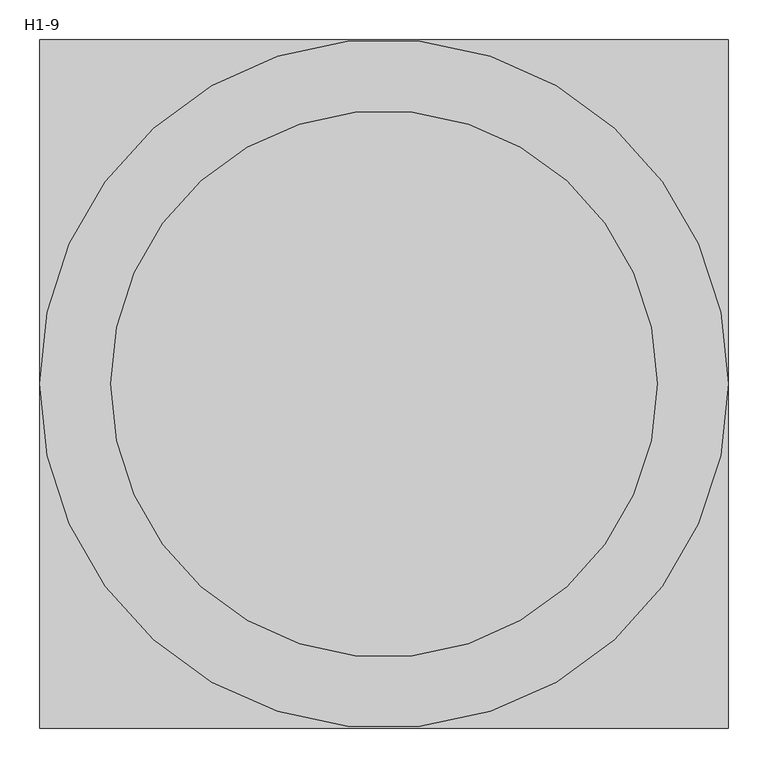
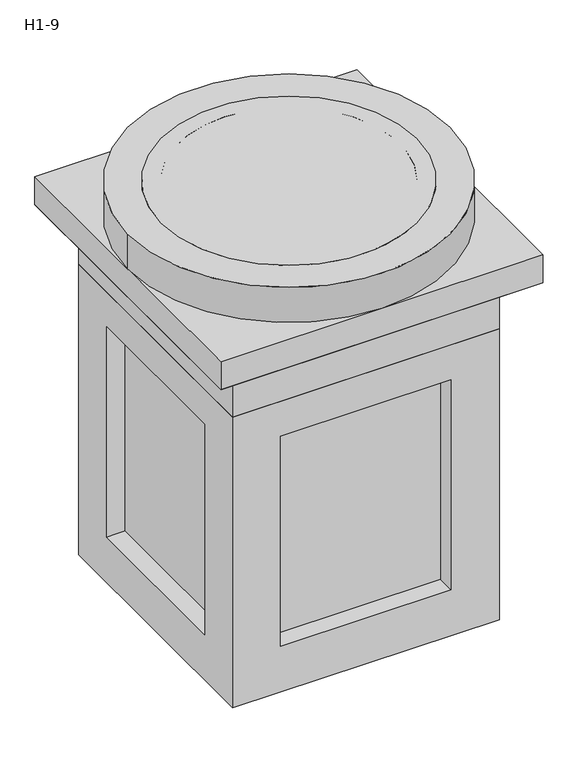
"""IFC4 building model written with IfcOpenShell, lengths in millimetres: electric distribution board geometry, 21904_ハンドホール H1 : H1-9."""

from ifc_helpers import new_model, si_unit, point, frame, origin, origin_with_axes, origin_2d, place, context, project, spatial, polyline, circle_curve, trimmed, segment, composite_curve, outline, extrude, source, transform, mapped, element, save
from ifc_brep_helpers import plane_surface, revolved_surface, advanced_brep


def h1_9_0894fb5f(model_context):
    return source(origin(), model_context, "Body", "SolidModel", [
        extrude(outline(polyline([(360.0, 360.0), (360.0, -360.0), (-360.0, -360.0), (-360.0, 360.0), (360.0, 360.0)]), holes=[composite_curve([segment(trimmed(circle_curve(origin_2d(), 300.0), [point((0.0, 300.0))], [point((0.0, -300.0))], True, "CARTESIAN"), True, "CONTINUOUS"), segment(trimmed(circle_curve(origin_2d(), 300.0), [point((0.0, -300.0))], [point((0.0, 300.0))], True, "CARTESIAN"), True, "CONTINUOUS")], self_intersect=False)]), frame((0.0, 0.0, -300.0), z_axis=(0.0, 0.0, 1.0), x_axis=(1.0, 0.0, 0.0)), (0.0, 0.0, 1.0), 100.0),
        extrude(outline(composite_curve([segment(trimmed(circle_curve(origin_2d(), 345.0), [point((-345.0, 0.0))], [point((345.0, 0.0))], False, "CARTESIAN"), True, "CONTINUOUS"), segment(trimmed(circle_curve(origin_2d(), 345.0), [point((345.0, 0.0))], [point((-345.0, 0.0))], False, "CARTESIAN"), True, "CONTINUOUS")], self_intersect=False)), origin_with_axes(), (0.0, 0.0, 1.0), 30.0),
        extrude(outline(composite_curve([segment(trimmed(circle_curve(origin_2d(), 435.0), [point((-435.0, 0.0))], [point((435.0, 0.0))], False, "CARTESIAN"), True, "CONTINUOUS"), segment(trimmed(circle_curve(origin_2d(), 435.0), [point((435.0, 0.0))], [point((-435.0, 0.0))], False, "CARTESIAN"), True, "CONTINUOUS")], self_intersect=False), holes=[composite_curve([segment(trimmed(circle_curve(origin_2d(), 300.0), [point((0.0, 300.0))], [point((0.0, -300.0))], True, "CARTESIAN"), True, "CONTINUOUS"), segment(trimmed(circle_curve(origin_2d(), 300.0), [point((0.0, -300.0))], [point((0.0, 300.0))], True, "CARTESIAN"), True, "CONTINUOUS")], self_intersect=False)]), frame((0.0, 0.0, -70.0), z_axis=(0.0, 0.0, 1.0), x_axis=(1.0, 0.0, 0.0)), (0.0, 0.0, 1.0), 100.0),
        advanced_brep(
        [(360.0, -360.0, -300.0), (360.0, 360.0, -300.0), (-360.0, 360.0, -300.0), (-360.0, -360.0, -300.0), (0.0, -300.0, -300.0), (0.0, 300.0, -300.0), (360.0, -360.0, -1130.0), (-360.0, -360.0, -1130.0), (-360.0, 360.0, -1130.0), (360.0, 360.0, -1130.0), (360.0, -230.0, -400.0), (360.0, 230.0, -400.0), (360.0, 230.0, -1000.0), (360.0, -230.0, -1000.0), (230.0, 360.0, -400.0), (-230.0, 360.0, -400.0), (-230.0, 360.0, -1000.0), (230.0, 360.0, -1000.0), (-360.0, 230.0, -400.0), (-360.0, -230.0, -400.0), (-360.0, -230.0, -1000.0), (-360.0, 230.0, -1000.0), (-230.0, -360.0, -400.0), (230.0, -360.0, -400.0), (230.0, -360.0, -1000.0), (-230.0, -360.0, -1000.0), (0.0, 300.0, -1050.0), (0.0, -300.0, -1050.0), (310.0, -230.0, -400.0), (310.0, -230.0, -1000.0), (310.0, 230.0, -1000.0), (310.0, 230.0, -400.0), (230.0, -310.0, -400.0), (-230.0, -310.0, -400.0), (-230.0, -310.0, -1000.0), (230.0, -310.0, -1000.0), (-310.0, -230.0, -400.0), (-310.0, 230.0, -400.0), (-310.0, 230.0, -1000.0), (-310.0, -230.0, -1000.0), (230.0, 310.0, -400.0), (230.0, 310.0, -1000.0), (-230.0, 310.0, -1000.0), (-230.0, 310.0, -400.0)],
        [
            (0, 1),
            (1, 2),
            (2, 3),
            (3, 0),
            (4, 5, circle_curve(frame((0.0, 0.0, -300.0), z_axis=(0.0, 0.0, -1.0), x_axis=(0.0, -1.0, 0.0)), 300.0)),
            (5, 4, circle_curve(frame((0.0, 0.0, -300.0), z_axis=(0.0, 0.0, -1.0), x_axis=(0.0, -1.0, 0.0)), 300.0)),
            (6, 7),
            (7, 8),
            (8, 9),
            (9, 6),
            (0, 6),
            (9, 1),
            (10, 11),
            (11, 12),
            (12, 13),
            (13, 10),
            (8, 2),
            (14, 15),
            (15, 16),
            (16, 17),
            (17, 14),
            (7, 3),
            (18, 19),
            (19, 20),
            (20, 21),
            (21, 18),
            (22, 23),
            (23, 24),
            (24, 25),
            (25, 22),
            (26, 27, circle_curve(frame((0.0, 0.0, -1050.0), z_axis=(0.0, 0.0, 1.0), x_axis=(0.0, -1.0, 0.0)), 300.0)),
            (27, 26, circle_curve(frame((0.0, 0.0, -1050.0), z_axis=(0.0, 0.0, 1.0), x_axis=(0.0, -1.0, 0.0)), 300.0)),
            (26, 5),
            (4, 27),
            (28, 29),
            (29, 30),
            (30, 31),
            (31, 28),
            (31, 11),
            (10, 28),
            (30, 12),
            (29, 13),
            (32, 33),
            (33, 34),
            (34, 35),
            (35, 32),
            (32, 23),
            (22, 33),
            (25, 34),
            (24, 35),
            (36, 37),
            (37, 38),
            (38, 39),
            (39, 36),
            (36, 19),
            (18, 37),
            (21, 38),
            (20, 39),
            (40, 41),
            (41, 42),
            (42, 43),
            (43, 40),
            (43, 15),
            (14, 40),
            (42, 16),
            (41, 17),
        ],
        [
            plane_surface(frame((360.0, -360.0, -300.0), z_axis=(0.0, 0.0, 1.0), x_axis=(0.0, 1.0, 0.0))),
            plane_surface(frame((360.0, -360.0, -1130.0), z_axis=(0.0, 0.0, -1.0), x_axis=(0.0, -1.0, 0.0))),
            plane_surface(frame((360.0, -360.0, -300.0), z_axis=(1.0, 0.0, 0.0), x_axis=(0.0, 0.0, -1.0))),
            plane_surface(frame((360.0, 360.0, -300.0), z_axis=(0.0, 1.0, 0.0), x_axis=(0.0, 0.0, -1.0))),
            plane_surface(frame((-360.0, 360.0, -300.0), z_axis=(-1.0, 0.0, 0.0), x_axis=(0.0, 0.0, -1.0))),
            plane_surface(frame((-360.0, -360.0, -300.0), z_axis=(0.0, -1.0, 0.0), x_axis=(0.0, 0.0, -1.0))),
            plane_surface(frame((0.0, -300.0, -1050.0), z_axis=(0.0, 0.0, 1.0), x_axis=(-1.0, 0.0, 0.0))),
            revolved_surface(polyline([(0.0, -300.0, -1050.0), (0.0, -300.0, -300.0)]), (0.0, 0.0, 30.0), (0.0, 0.0, -1.0)),
            plane_surface(frame((310.0, -230.0, -400.0), z_axis=(1.0, 0.0, 0.0), x_axis=(0.0, 0.0, 1.0))),
            plane_surface(frame((360.0, 230.0, -400.0), z_axis=(0.0, 0.0, -1.0), x_axis=(-1.0, 0.0, 0.0))),
            plane_surface(frame((360.0, 230.0, -1000.0), z_axis=(0.0, -1.0, 0.0), x_axis=(-1.0, 0.0, 0.0))),
            plane_surface(frame((360.0, -230.0, -1000.0), z_axis=(0.0, 0.0, 1.0), x_axis=(-1.0, 0.0, 0.0))),
            plane_surface(frame((360.0, -230.0, -400.0), z_axis=(0.0, 1.0, 0.0), x_axis=(-1.0, 0.0, 0.0))),
            plane_surface(frame((-230.0, -310.0, -400.0), z_axis=(0.0, -1.0, 0.0), x_axis=(1.0, 0.0, 0.0))),
            plane_surface(frame((230.0, -360.0, -400.0), z_axis=(0.0, 0.0, -1.0), x_axis=(0.0, 1.0, 0.0))),
            plane_surface(frame((-230.0, -360.0, -400.0), z_axis=(1.0, 0.0, 0.0), x_axis=(0.0, 1.0, 0.0))),
            plane_surface(frame((-230.0, -360.0, -1000.0), z_axis=(0.0, 0.0, 1.0), x_axis=(0.0, 1.0, 0.0))),
            plane_surface(frame((230.0, -360.0, -1000.0), z_axis=(-1.0, 0.0, 0.0), x_axis=(0.0, 1.0, 0.0))),
            plane_surface(frame((-310.0, 230.0, -400.0), z_axis=(-1.0, 0.0, 0.0), x_axis=(0.0, -1.0, 0.0))),
            plane_surface(frame((-360.0, -230.0, -400.0), z_axis=(0.0, 0.0, -1.0), x_axis=(1.0, 0.0, 0.0))),
            plane_surface(frame((-360.0, 230.0, -400.0), z_axis=(0.0, -1.0, 0.0), x_axis=(1.0, 0.0, 0.0))),
            plane_surface(frame((-360.0, 230.0, -1000.0), z_axis=(0.0, 0.0, 1.0), x_axis=(1.0, 0.0, 0.0))),
            plane_surface(frame((-360.0, -230.0, -1000.0), z_axis=(0.0, 1.0, 0.0), x_axis=(1.0, 0.0, 0.0))),
            plane_surface(frame((230.0, 310.0, -400.0), z_axis=(0.0, 1.0, 0.0), x_axis=(0.0, 0.0, 1.0))),
            plane_surface(frame((-230.0, 360.0, -400.0), z_axis=(0.0, 0.0, -1.0), x_axis=(0.0, -1.0, 0.0))),
            plane_surface(frame((-230.0, 360.0, -1000.0), z_axis=(1.0, 0.0, 0.0), x_axis=(0.0, -1.0, 0.0))),
            plane_surface(frame((230.0, 360.0, -1000.0), z_axis=(0.0, 0.0, 1.0), x_axis=(0.0, -1.0, 0.0))),
            plane_surface(frame((230.0, 360.0, -400.0), z_axis=(-1.0, 0.0, 0.0), x_axis=(0.0, -1.0, 0.0))),
        ],
        [
            (0, [[1, 2, 3, 4], [5, 6]]),
            (1, [[7, 8, 9, 10]]),
            (2, [[-1, 11, -10, 12], [13, 14, 15, 16]]),
            (3, [[-2, -12, -9, 17], [18, 19, 20, 21]]),
            (4, [[-3, -17, -8, 22], [23, 24, 25, 26]]),
            (5, [[-4, -22, -7, -11], [27, 28, 29, 30]]),
            (6, [[31, 32]]),
            (7, [[-31, 33, -5, 34]]),
            (7, [[-32, -34, -6, -33]]),
            (8, [[35, 36, 37, 38]]),
            (9, [[-38, 39, -13, 40]]),
            (10, [[-37, 41, -14, -39]]),
            (11, [[-36, 42, -15, -41]]),
            (12, [[-35, -40, -16, -42]]),
            (13, [[43, 44, 45, 46]]),
            (14, [[-43, 47, -27, 48]]),
            (15, [[-44, -48, -30, 49]]),
            (16, [[-45, -49, -29, 50]]),
            (17, [[-46, -50, -28, -47]]),
            (18, [[51, 52, 53, 54]]),
            (19, [[-51, 55, -23, 56]]),
            (20, [[-52, -56, -26, 57]]),
            (21, [[-53, -57, -25, 58]]),
            (22, [[-54, -58, -24, -55]]),
            (23, [[59, 60, 61, 62]]),
            (24, [[-62, 63, -18, 64]]),
            (25, [[-61, 65, -19, -63]]),
            (26, [[-60, 66, -20, -65]]),
            (27, [[-59, -64, -21, -66]]),
        ],
    ),
        advanced_brep(
        [(435.0, 435.0, -150.0), (-435.0, 435.0, -150.0), (-435.0, -435.0, -150.0), (435.0, -435.0, -150.0), (0.0, -300.0, -150.0), (0.0, 300.0, -150.0), (360.0, 360.0, -200.0), (360.0, -360.0, -200.0), (-360.0, -360.0, -200.0), (-360.0, 360.0, -200.0), (0.0, 300.0, -200.0), (0.0, -300.0, -200.0)],
        [
            (0, 1),
            (1, 2),
            (2, 3),
            (3, 0),
            (4, 5, circle_curve(frame((0.0, 0.0, -150.0), z_axis=(0.0, 0.0, -1.0), x_axis=(0.0, -1.0, 0.0)), 300.0)),
            (5, 4, circle_curve(frame((0.0, 0.0, -150.0), z_axis=(0.0, 0.0, -1.0), x_axis=(0.0, -1.0, 0.0)), 300.0)),
            (6, 7),
            (7, 8),
            (8, 9),
            (9, 6),
            (10, 11, circle_curve(frame((0.0, 0.0, -200.0), z_axis=(0.0, 0.0, 1.0), x_axis=(0.0, -1.0, 0.0)), 300.0)),
            (11, 10, circle_curve(frame((0.0, 0.0, -200.0), z_axis=(0.0, 0.0, 1.0), x_axis=(0.0, -1.0, 0.0)), 300.0)),
            (0, 6),
            (9, 1),
            (8, 2),
            (7, 3),
            (4, 11),
            (10, 5),
        ],
        [
            plane_surface(frame((0.0, 0.0, -150.0), z_axis=(0.0, 0.0, 1.0), x_axis=(0.0, 1.0, 0.0))),
            plane_surface(frame((0.0, 0.0, -200.0), z_axis=(0.0, 0.0, -1.0), x_axis=(0.0, 1.0, 0.0))),
            plane_surface(frame((0.0, 360.0, -200.0), z_axis=(0.0, 0.5547001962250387, -0.8320502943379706), x_axis=(-1.0, 0.0, 0.0))),
            plane_surface(frame((-360.0, 0.0, -200.0), z_axis=(-0.5547001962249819, 0.0, -0.8320502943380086), x_axis=(0.0, -1.0, 0.0))),
            plane_surface(frame((0.0, -360.0, -200.0), z_axis=(0.0, -0.5547001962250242, -0.8320502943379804), x_axis=(1.0, 0.0, 0.0))),
            plane_surface(frame((360.0, 0.0, -200.0), z_axis=(0.5547001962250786, 0.0, -0.8320502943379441), x_axis=(0.0, 1.0, 0.0))),
            revolved_surface(polyline([(0.0, -300.0, -200.0), (0.0, -300.0, -150.0)]), (0.0, 0.0, 30.0), (0.0, 0.0, -1.0)),
        ],
        [
            (0, [[1, 2, 3, 4], [5, 6]]),
            (1, [[7, 8, 9, 10], [11, 12]]),
            (2, [[-1, 13, -10, 14]]),
            (3, [[-2, -14, -9, 15]]),
            (4, [[-3, -15, -8, 16]]),
            (5, [[-4, -16, -7, -13]]),
            (6, [[17, -11, 18, -5]]),
            (6, [[-17, -6, -18, -12]]),
        ],
    ),
        extrude(outline(polyline([(435.0, 435.0), (435.0, -435.0), (-435.0, -435.0), (-435.0, 435.0), (435.0, 435.0)]), holes=[composite_curve([segment(trimmed(circle_curve(origin_2d(), 300.0), [point((0.0, 300.0))], [point((0.0, -300.0))], True, "CARTESIAN"), True, "CONTINUOUS"), segment(trimmed(circle_curve(origin_2d(), 300.0), [point((0.0, -300.0))], [point((0.0, 300.0))], True, "CARTESIAN"), True, "CONTINUOUS")], self_intersect=False)]), frame((0.0, 0.0, -150.0), z_axis=(0.0, 0.0, 1.0), x_axis=(1.0, 0.0, 0.0)), (0.0, 0.0, 1.0), 80.0),
    ])


if __name__ == "__main__":
    model = new_model("IFC4")
    model_context = context("Model", 3, world=origin())
    ifc_project = project(units=[si_unit("LENGTHUNIT", "METRE", prefix="MILLI")], contexts=[model_context])
    site = spatial("IfcSite", under=ifc_project)
    building = spatial("IfcBuilding", under=site)
    placement = place(None, origin())
    h1_9_shape = h1_9_0894fb5f(model_context)
    element("IfcElectricDistributionBoard", 1, ObjectType="21904_ハンドホール H1 : H1-9", at=placement, inside=building, context=model_context, shape_type="MappedRepresentation", body=[
        mapped(h1_9_shape, transform((0.0, 0.0, 0.0), x_axis=(1.0, 0.0, 0.0), y_axis=(0.0, 1.0, 0.0), z_axis=(0.0, 0.0, 1.0))),
    ])
    save(model, "model.ifc")
